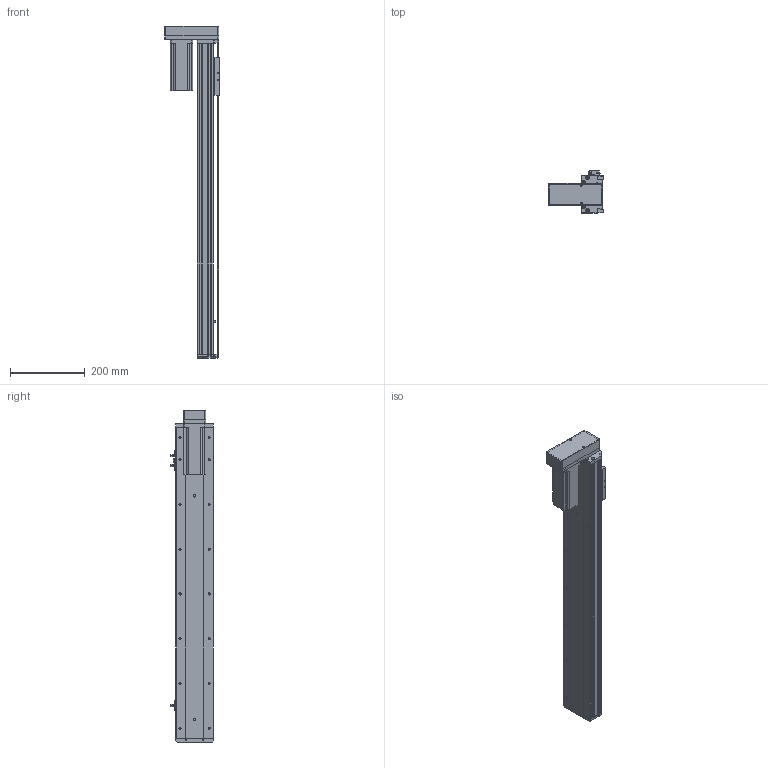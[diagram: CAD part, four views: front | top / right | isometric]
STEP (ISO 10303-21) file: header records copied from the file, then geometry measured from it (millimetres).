
FILE_DESCRIPTION (( 'STEP AP214' ), '1' );
FILE_NAME ('KSD100S-S650-MD-CM.STEP', '2019-08-30T03:35:20', ( '微软用户' ), ( '微软中国' ), 'SwSTEP 2.0', 'SolidWorks 2014', '' );
FILE_SCHEMA (( 'AUTOMOTIVE_DESIGN' ));
Length unit declared in the file: millimetre
Products named in the file (11): 覜茼え100遵圉猾敕; U倰嫖萇EEㄜSX672; 100宽防尘板丝杆650行程; 100遵鎮湛假蚾啣; 100宽滚珠螺姆安装板半封闭; 100遵傷啣; 100宽底板半封闭丝杆650行程; KSD100S-S650-MD-CM; 悵誘欶奻狟殏; 100宽马达安装板连板上下折丝杆同步带; 台达ECMA－C20604AS伺服电机
Assembly tree (12 placements, depth 2):
  KSD100S-S650-MD-CM
    100宽底板半封闭丝杆650行程
    100遵傷啣
    100宽滚珠螺姆安装板半封闭
    100遵鎮湛假蚾啣
    100宽防尘板丝杆650行程
    U倰嫖萇EEㄜSX672  x3
    覜茼え100遵圉猾敕
    台达ECMA－C20604AS伺服电机
    100宽马达安装板连板上下折丝杆同步带
    悵誘欶奻狟殏
Bounding box: 147 x 113.7 x 890.5 mm (x, y, z)
Volume: 2235916 mm3; surface area: 711323.6 mm2
Topology: 13 solids, 13 shells, 1267 faces, 3570 edges, 2261 vertices
Faces by surface type: cylinder 624, plane 508, cone 135
Entity records: 45387 total; most frequent: CARTESIAN_POINT 8597, DIRECTION 6009, ORIENTED_EDGE 5776, EDGE_CURVE 2888, AXIS2_PLACEMENT_3D 2189, VERTEX_POINT 1885, LINE 1631, VECTOR 1631
